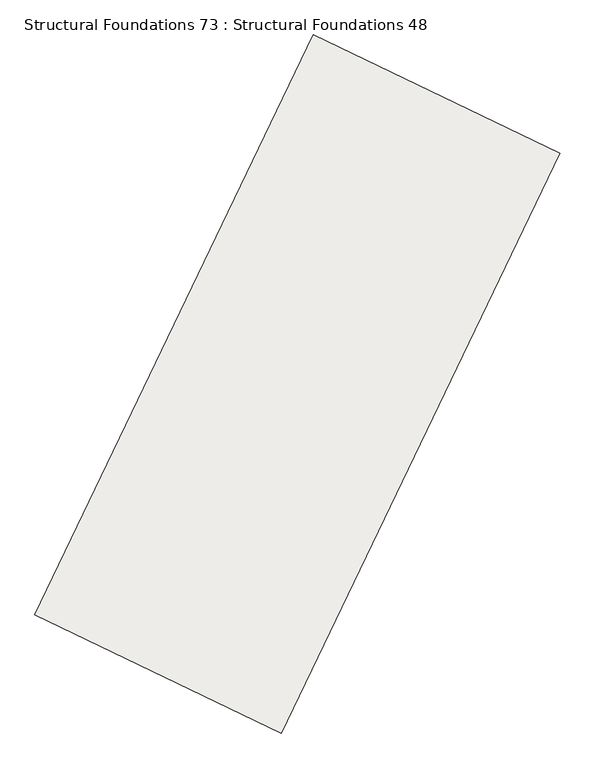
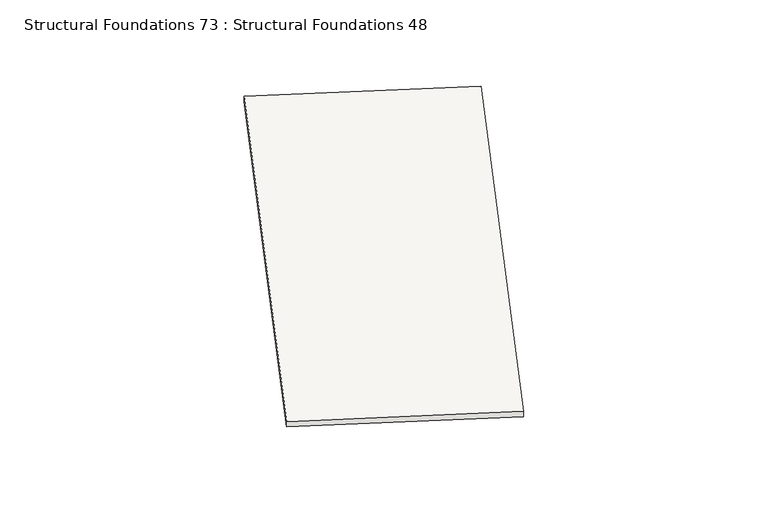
"""IFC4 building model written with IfcOpenShell, lengths in millimetres: slab geometry, Structural Foundations 73 : Structural Foundations 48."""

from ifc_helpers import new_model, si_unit, origin, place, context, project, spatial, faceted_brep, source, transform, mapped, element, save


def structural_foundations_73_structural_foundations_48_2ae4c79c(model_context):
    return source(origin(), model_context, "Body", "Brep", [
        faceted_brep([(419645.4379837, 352134.3516378, 645981.8095658), (416310.2359507, 353736.3392446, 645981.8095658), (416310.2359507, 353736.3392446, 645881.8095658), (419645.4379837, 352134.3516378, 645881.8095658), (423409.5456806, 359977.916972, 646091.8095658), (423409.5456806, 359977.916972, 645991.8095658), (420074.3436476, 361579.9045788, 645991.8095658), (420074.3436476, 361579.9045788, 646091.8095658)], [[[0, 1, 2, 3]], [[4, 5, 6, 7]], [[4, 7, 1, 0]], [[7, 6, 2, 1]], [[6, 5, 3, 2]], [[5, 4, 0, 3]]]),
    ])


if __name__ == "__main__":
    model = new_model("IFC4")
    model_context = context("Model", 3, world=origin())
    ifc_project = project(units=[si_unit("LENGTHUNIT", "METRE", prefix="MILLI")], contexts=[model_context])
    site = spatial("IfcSite", under=ifc_project)
    building = spatial("IfcBuilding", under=site)
    placement = place(None, origin())
    structural_foundations_73_structural_foundations_48_shape = structural_foundations_73_structural_foundations_48_2ae4c79c(model_context)
    element("IfcSlab", 1, ObjectType="Structural Foundations 73 : Structural Foundations 48", at=placement, inside=building, context=model_context, shape_type="MappedRepresentation", body=[
        mapped(structural_foundations_73_structural_foundations_48_shape, transform((0.0, 0.0, 0.0), x_axis=(1.0, 0.0, 0.0), y_axis=(0.0, 1.0, 0.0), z_axis=(0.0, 0.0, 1.0))),
    ])
    save(model, "model.ifc")
